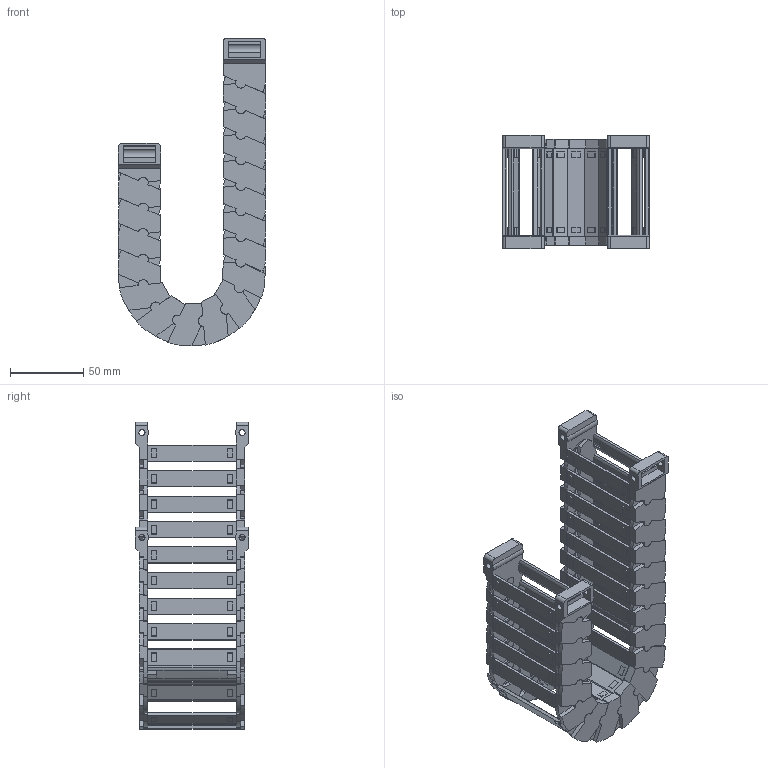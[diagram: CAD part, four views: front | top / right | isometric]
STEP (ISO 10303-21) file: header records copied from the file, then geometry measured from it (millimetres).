
FILE_DESCRIPTION(/* description */ (''),/* implementation_level */ '2;1');
FILE_NAME(/* name */ 'JY22-60-R35.stp',/* time_stamp */ '2026-06-20T14:50:18+08:00',/* author */ (''),/* organization */ (''),/* preprocessor_version */ 'ST-DEVELOPER v19.4',/* originating_system */ 'SIEMENS PLM Software NX2306.5001',/* authorisation */ '');
FILE_SCHEMA (('AP203_CONFIGURATION_CONTROLLED_3D_DESIGN_OF_MECHANICAL_PARTS_AND_ASSEMBLIES_MIM_LF { 1 0 10303 403 2 1 2}'));
Products named in the file (1): 简易图纸_objects
Bounding box: 100.88 x 77.5 x 210.31 mm (x, y, z)
Volume: 174643.1 mm3; surface area: 156537.3 mm2
Topology: 19 solids, 19 shells, 3140 faces, 10162 edges, 6766 vertices
Faces by surface type: plane 2354, cylinder 502, cone 144, bspline 140
Full cylindrical faces by diameter (mm): 4.2 x8, 7 x36, 7.1 x36
Entity records: 116691 total; most frequent: CARTESIAN_POINT 27541, ORIENTED_EDGE 20004, DIRECTION 17282, EDGE_CURVE 10002, LINE 6856, VECTOR 6856, VERTEX_POINT 6686, AXIS2_PLACEMENT_3D 5213
